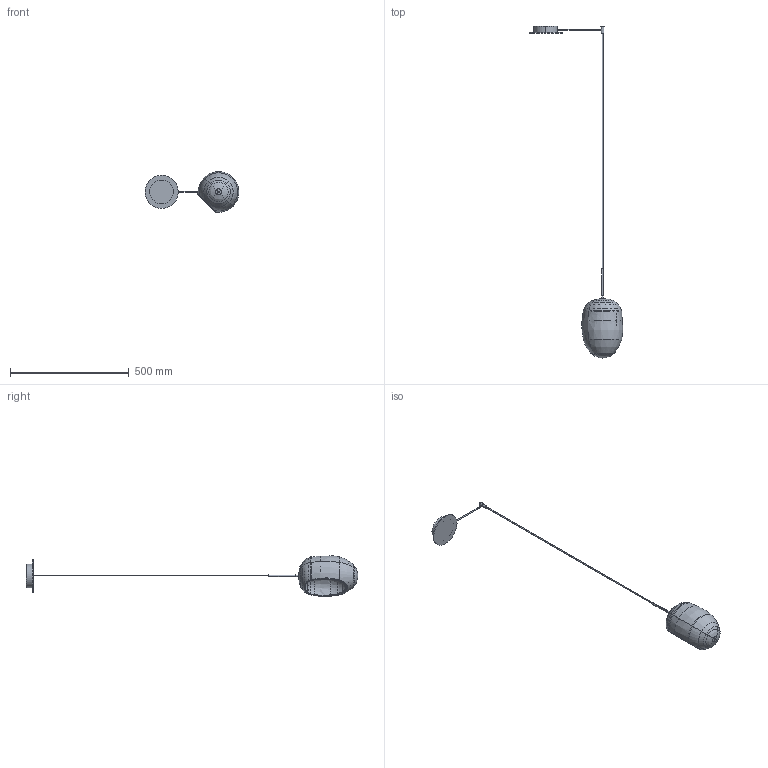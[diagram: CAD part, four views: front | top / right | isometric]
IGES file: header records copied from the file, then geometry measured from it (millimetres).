
Start section: SolidWorks IGES file using analytic representation for surfaces
Global section: file name: Y:\eforma\TECNICO\SOLIDWORKS\E-FORMA\09-LAMPADE\FOS\02 parts\FOS01_1 sospensione.IGS; native system: SolidWorks 2022; preprocessor: SolidWorks 2022; author: eforma.tech; date: 250519.091409; units: millimetre
Bounding box: 396.1 x 1400.54 x 172.88 mm (x, y, z)
Volume: 662713.7 mm3; surface area: 368760.7 mm2
Topology: 11 solids, 11 shells, 236 faces, 561 edges, 346 vertices
Faces by surface type: revolution 151, plane 63, bspline 22
